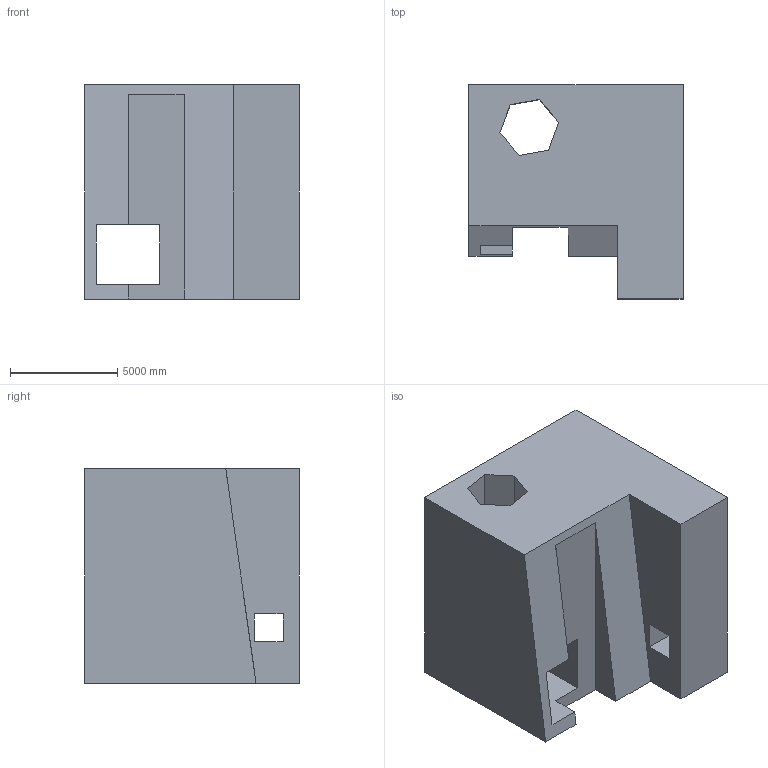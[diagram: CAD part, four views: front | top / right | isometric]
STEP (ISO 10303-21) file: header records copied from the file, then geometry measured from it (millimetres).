
FILE_DESCRIPTION (( 'STEP AP203' ), '1' );
FILE_NAME ('282.STEP', '2022-09-07T12:36:18', ( 'user' ), ( '' ), 'SwSTEP 2.0', 'SolidWorks 2021', '' );
FILE_SCHEMA (( 'CONFIG_CONTROL_DESIGN' ));
Length unit declared in the file: centimetre
Products named in the file (1): 282
Bounding box: 10000 x 10000 x 10000 mm (x, y, z)
Volume: 690921131486.5 mm3; surface area: 691267369.8 mm2
Topology: 1 solids, 1 shells, 30 faces, 93 edges, 62 vertices
Faces by surface type: plane 30
Entity records: 1110 total; most frequent: ORIENTED_EDGE 186, CARTESIAN_POINT 186, DIRECTION 155, VECTOR 93, EDGE_CURVE 93, LINE 93, VERTEX_POINT 62, EDGE_LOOP 35
